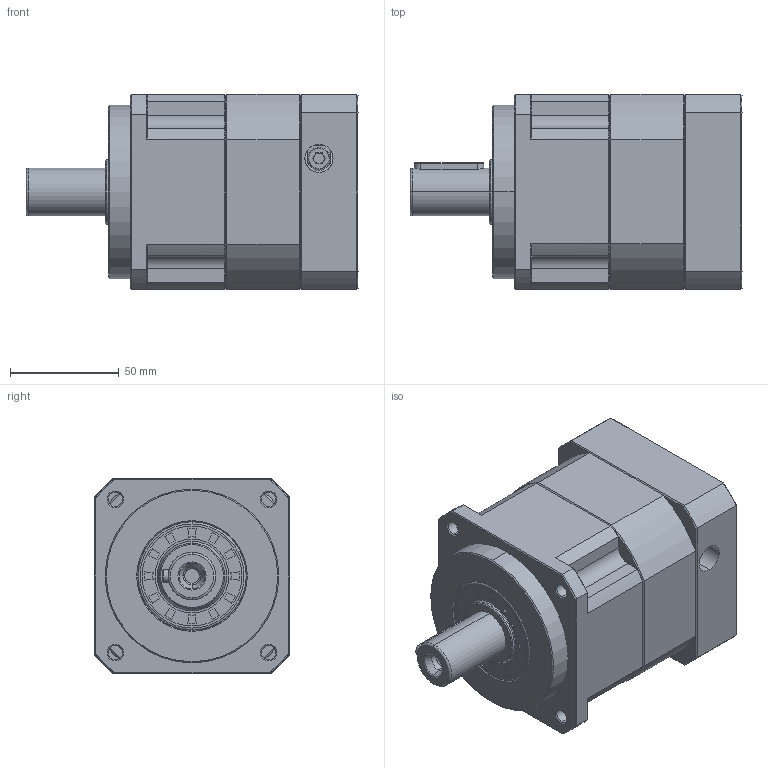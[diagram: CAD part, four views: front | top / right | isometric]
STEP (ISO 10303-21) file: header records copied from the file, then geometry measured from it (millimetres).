
FILE_DESCRIPTION (( 'STEP AP214' ), '1' );
FILE_NAME ('ZPB090-D22-L1-P1-14-73-69.6X69.6-M6.step', '2024-06-07T18:18:39', ( 'Windows 蚚誧' ), ( 'Organization' ), 'SwSTEP 2.0', 'SolidWorks 2016', '' );
FILE_SCHEMA (( 'AUTOMOTIVE_DESIGN' ));
Length unit declared in the file: millimetre
Products named in the file (1): ZPB090-D22-L1-P1-14-73-69.6X69.6-M6
Bounding box: 153 x 90 x 90 mm (x, y, z)
Surface area: 77095.3 mm2 (no closed solid volume)
Topology: 0 solids, 35 shells, 1819 faces, 4872 edges, 3116 vertices
Faces by surface type: plane 936, bspline 387, cone 276, cylinder 218, torus 2
Full cylindrical faces by diameter (mm): 6.72 x1
Entity records: 94913 total; most frequent: CARTESIAN_POINT 47679, ORIENTED_EDGE 9695, DIRECTION 7473, EDGE_CURVE 4867, VECTOR 3203, LINE 3203, VERTEX_POINT 3114, AXIS2_PLACEMENT_3D 2135
